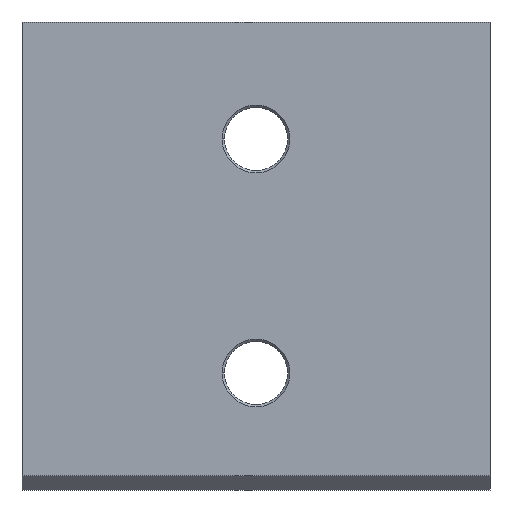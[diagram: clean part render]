
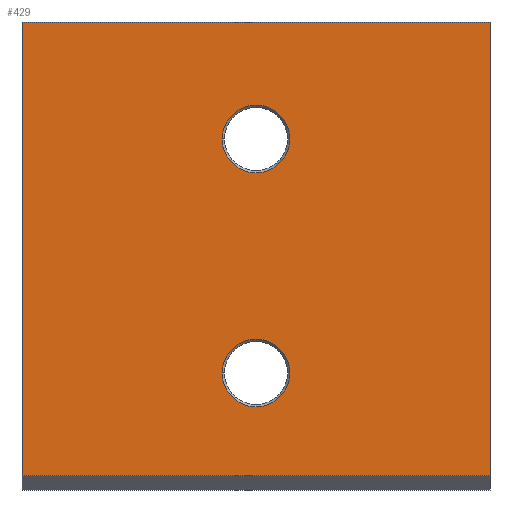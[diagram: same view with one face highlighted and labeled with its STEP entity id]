
A CAD part, left-side view. The second image highlights one B-rep face of the part: STEP entity #429.
In plain terms, the highlighted planar face has unit normal (-1, 0, 0).
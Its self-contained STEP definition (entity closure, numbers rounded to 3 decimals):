
#17 = AXIS2_PLACEMENT_3D ( 'NONE', #147, #722, #25 ) ;
#18 = DIRECTION ( 'NONE',  ( 0., 1., 0. ) ) ;
#25 = DIRECTION ( 'NONE',  ( 0., 1., 0. ) ) ;
#28 = ORIENTED_EDGE ( 'NONE', *, *, #238, .T. ) ;
#31 = CARTESIAN_POINT ( 'NONE',  ( 0., -50., -47. ) ) ;
#50 = CIRCLE ( 'NONE', #17, 7.25 ) ;
#51 = EDGE_CURVE ( 'NONE', #113, #321, #186, .T. ) ;
#52 = ORIENTED_EDGE ( 'NONE', *, *, #261, .T. ) ;
#55 = CARTESIAN_POINT ( 'NONE',  ( 0., 0., 50. ) ) ;
#57 = ORIENTED_EDGE ( 'NONE', *, *, #439, .F. ) ;
#69 = CIRCLE ( 'NONE', #148, 7.25 ) ;
#70 = CIRCLE ( 'NONE', #92, 7.25 ) ;
#84 = EDGE_LOOP ( 'NONE', ( #297, #676 ) ) ;
#92 = AXIS2_PLACEMENT_3D ( 'NONE', #195, #141, #414 ) ;
#113 = VERTEX_POINT ( 'NONE', #289 ) ;
#141 = DIRECTION ( 'NONE',  ( 1., 0., 0. ) ) ;
#147 = CARTESIAN_POINT ( 'NONE',  ( 0., 0., 25. ) ) ;
#148 = AXIS2_PLACEMENT_3D ( 'NONE', #554, #548, #542 ) ;
#151 = VERTEX_POINT ( 'NONE', #472 ) ;
#159 = CARTESIAN_POINT ( 'NONE',  ( 0., -50., 1.5 ) ) ;
#172 = DIRECTION ( 'NONE',  ( 1., 0., 0. ) ) ;
#176 = LINE ( 'NONE', #159, #235 ) ;
#186 = LINE ( 'NONE', #55, #660 ) ;
#187 = EDGE_CURVE ( 'NONE', #151, #209, #69, .T. ) ;
#195 = CARTESIAN_POINT ( 'NONE',  ( 0., 0., -25. ) ) ;
#199 = CARTESIAN_POINT ( 'NONE',  ( 0., 50., 1.5 ) ) ;
#209 = VERTEX_POINT ( 'NONE', #475 ) ;
#211 = CARTESIAN_POINT ( 'NONE',  ( 0., -50., 50. ) ) ;
#223 = DIRECTION ( 'NONE',  ( 0., 1., 0. ) ) ;
#235 = VECTOR ( 'NONE', #374, 1000. ) ;
#238 = EDGE_CURVE ( 'NONE', #443, #420, #537, .T. ) ;
#257 = CARTESIAN_POINT ( 'NONE',  ( 0., 0., 0. ) ) ;
#261 = EDGE_CURVE ( 'NONE', #420, #443, #70, .T. ) ;
#268 = ORIENTED_EDGE ( 'NONE', *, *, #559, .F. ) ;
#289 = CARTESIAN_POINT ( 'NONE',  ( 0., 50., 50. ) ) ;
#296 = FACE_BOUND ( 'NONE', #330, .T. ) ;
#297 = ORIENTED_EDGE ( 'NONE', *, *, #187, .T. ) ;
#300 = VERTEX_POINT ( 'NONE', #31 ) ;
#302 = LINE ( 'NONE', #199, #634 ) ;
#317 = VECTOR ( 'NONE', #223, 1000. ) ;
#321 = VERTEX_POINT ( 'NONE', #211 ) ;
#330 = EDGE_LOOP ( 'NONE', ( #28, #52 ) ) ;
#342 = FACE_OUTER_BOUND ( 'NONE', #741, .T. ) ;
#343 = DIRECTION ( 'NONE',  ( 0., 1., 0. ) ) ;
#349 = CARTESIAN_POINT ( 'NONE',  ( 0., 50., -47. ) ) ;
#360 = LINE ( 'NONE', #746, #317 ) ;
#367 = CARTESIAN_POINT ( 'NONE',  ( 0., -7.25, -25. ) ) ;
#374 = DIRECTION ( 'NONE',  ( 0., 0., -1. ) ) ;
#389 = DIRECTION ( 'NONE',  ( 0., 0., 1. ) ) ;
#392 = FACE_BOUND ( 'NONE', #84, .T. ) ;
#406 = CARTESIAN_POINT ( 'NONE',  ( 0., 0., -25. ) ) ;
#414 = DIRECTION ( 'NONE',  ( 0., 1., 0. ) ) ;
#420 = VERTEX_POINT ( 'NONE', #438 ) ;
#429 = ADVANCED_FACE ( 'NONE', ( #342, #296, #392 ), #633, .F. ) ;
#438 = CARTESIAN_POINT ( 'NONE',  ( 0., 7.25, -25. ) ) ;
#439 = EDGE_CURVE ( 'NONE', #300, #781, #360, .T. ) ;
#443 = VERTEX_POINT ( 'NONE', #367 ) ;
#466 = EDGE_CURVE ( 'NONE', #209, #151, #50, .T. ) ;
#472 = CARTESIAN_POINT ( 'NONE',  ( 0., -7.25, 25. ) ) ;
#475 = CARTESIAN_POINT ( 'NONE',  ( 0., 7.25, 25. ) ) ;
#497 = DIRECTION ( 'NONE',  ( 1., 0., 0. ) ) ;
#513 = AXIS2_PLACEMENT_3D ( 'NONE', #257, #497, #18 ) ;
#537 = CIRCLE ( 'NONE', #712, 7.25 ) ;
#542 = DIRECTION ( 'NONE',  ( 0., 1., 0. ) ) ;
#548 = DIRECTION ( 'NONE',  ( 1., 0., 0. ) ) ;
#554 = CARTESIAN_POINT ( 'NONE',  ( 0., 0., 25. ) ) ;
#559 = EDGE_CURVE ( 'NONE', #781, #113, #302, .T. ) ;
#605 = EDGE_CURVE ( 'NONE', #321, #300, #176, .T. ) ;
#633 = PLANE ( 'NONE',  #513 ) ;
#634 = VECTOR ( 'NONE', #389, 1000. ) ;
#660 = VECTOR ( 'NONE', #803, 1000. ) ;
#676 = ORIENTED_EDGE ( 'NONE', *, *, #466, .T. ) ;
#712 = AXIS2_PLACEMENT_3D ( 'NONE', #406, #172, #343 ) ;
#722 = DIRECTION ( 'NONE',  ( 1., 0., 0. ) ) ;
#727 = ORIENTED_EDGE ( 'NONE', *, *, #51, .F. ) ;
#741 = EDGE_LOOP ( 'NONE', ( #57, #780, #727, #268 ) ) ;
#746 = CARTESIAN_POINT ( 'NONE',  ( 0., 0., -47. ) ) ;
#780 = ORIENTED_EDGE ( 'NONE', *, *, #605, .F. ) ;
#781 = VERTEX_POINT ( 'NONE', #349 ) ;
#803 = DIRECTION ( 'NONE',  ( 0., -1., 0. ) ) ;
